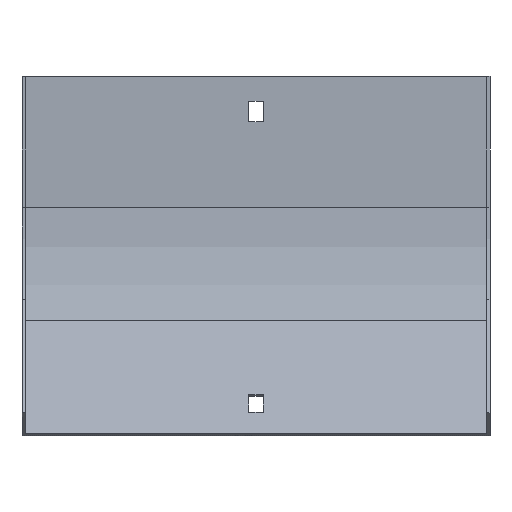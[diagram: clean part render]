
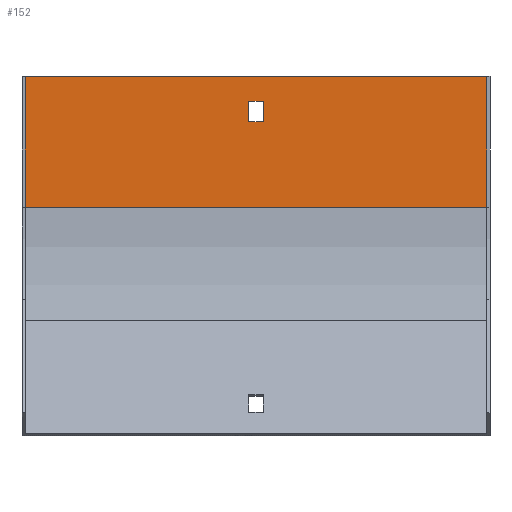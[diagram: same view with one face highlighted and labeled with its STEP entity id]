
A CAD part, front view. The second image highlights one B-rep face of the part: STEP entity #152.
In plain terms, the highlighted planar face has unit normal (0, -1, 0).
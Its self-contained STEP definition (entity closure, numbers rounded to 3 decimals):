
#1 = CARTESIAN_POINT ( 'NONE',  ( 102., -1.5, -57.9 ) ) ;
#6 = EDGE_LOOP ( 'NONE', ( #658, #153, #466, #668 ) ) ;
#24 = CARTESIAN_POINT ( 'NONE',  ( 103.5, -1.5, -57.9 ) ) ;
#42 = DIRECTION ( 'NONE',  ( 0., 0., 1. ) ) ;
#49 = VERTEX_POINT ( 'NONE', #431 ) ;
#56 = ORIENTED_EDGE ( 'NONE', *, *, #581, .F. ) ;
#73 = EDGE_CURVE ( 'NONE', #150, #790, #367, .T. ) ;
#98 = VECTOR ( 'NONE', #42, 1000. ) ;
#100 = VECTOR ( 'NONE', #564, 1000. ) ;
#105 = VERTEX_POINT ( 'NONE', #387 ) ;
#127 = FACE_BOUND ( 'NONE', #6, .T. ) ;
#150 = VERTEX_POINT ( 'NONE', #641 ) ;
#152 = ADVANCED_FACE ( 'NONE', ( #127, #715 ), #655, .T. ) ;
#153 = ORIENTED_EDGE ( 'NONE', *, *, #234, .F. ) ;
#167 = VERTEX_POINT ( 'NONE', #709 ) ;
#168 = CARTESIAN_POINT ( 'NONE',  ( 103.5, -1.5, 0. ) ) ;
#170 = DIRECTION ( 'NONE',  ( 0., 0., 1. ) ) ;
#195 = ORIENTED_EDGE ( 'NONE', *, *, #712, .T. ) ;
#210 = CARTESIAN_POINT ( 'NONE',  ( -102., -1.5, 0. ) ) ;
#211 = DIRECTION ( 'NONE',  ( 1., 0., 0. ) ) ;
#234 = EDGE_CURVE ( 'NONE', #105, #703, #591, .T. ) ;
#240 = DIRECTION ( 'NONE',  ( 0., 0., -1. ) ) ;
#242 = LINE ( 'NONE', #773, #801 ) ;
#272 = AXIS2_PLACEMENT_3D ( 'NONE', #520, #791, #240 ) ;
#285 = CARTESIAN_POINT ( 'NONE',  ( -3.25, -1.5, 0. ) ) ;
#291 = DIRECTION ( 'NONE',  ( -1., 0., 0. ) ) ;
#307 = EDGE_CURVE ( 'NONE', #388, #105, #506, .T. ) ;
#313 = LINE ( 'NONE', #512, #98 ) ;
#317 = CARTESIAN_POINT ( 'NONE',  ( 103.5, -1.5, -11. ) ) ;
#323 = EDGE_CURVE ( 'NONE', #167, #790, #313, .T. ) ;
#346 = CARTESIAN_POINT ( 'NONE',  ( 3.25, -1.5, -20. ) ) ;
#367 = LINE ( 'NONE', #168, #596 ) ;
#374 = EDGE_CURVE ( 'NONE', #49, #388, #739, .T. ) ;
#387 = CARTESIAN_POINT ( 'NONE',  ( 3.25, -1.5, -11. ) ) ;
#388 = VERTEX_POINT ( 'NONE', #346 ) ;
#396 = VERTEX_POINT ( 'NONE', #1 ) ;
#419 = DIRECTION ( 'NONE',  ( 0., 0., 1. ) ) ;
#431 = CARTESIAN_POINT ( 'NONE',  ( -3.25, -1.5, -20. ) ) ;
#466 = ORIENTED_EDGE ( 'NONE', *, *, #307, .F. ) ;
#490 = VECTOR ( 'NONE', #170, 1000. ) ;
#500 = ORIENTED_EDGE ( 'NONE', *, *, #73, .T. ) ;
#501 = VECTOR ( 'NONE', #576, 1000. ) ;
#506 = LINE ( 'NONE', #768, #490 ) ;
#512 = CARTESIAN_POINT ( 'NONE',  ( -102., -1.5, -57.9 ) ) ;
#520 = CARTESIAN_POINT ( 'NONE',  ( 103.5, -1.5, 0. ) ) ;
#554 = LINE ( 'NONE', #24, #597 ) ;
#564 = DIRECTION ( 'NONE',  ( 0., 0., -1. ) ) ;
#572 = EDGE_CURVE ( 'NONE', #703, #49, #625, .T. ) ;
#576 = DIRECTION ( 'NONE',  ( -1., 0., 0. ) ) ;
#581 = EDGE_CURVE ( 'NONE', #396, #167, #554, .T. ) ;
#591 = LINE ( 'NONE', #317, #501 ) ;
#596 = VECTOR ( 'NONE', #687, 1000. ) ;
#597 = VECTOR ( 'NONE', #291, 1000. ) ;
#624 = VECTOR ( 'NONE', #211, 1000. ) ;
#625 = LINE ( 'NONE', #285, #100 ) ;
#641 = CARTESIAN_POINT ( 'NONE',  ( 102., -1.5, 0. ) ) ;
#642 = CARTESIAN_POINT ( 'NONE',  ( -3.25, -1.5, -11. ) ) ;
#655 = PLANE ( 'NONE',  #272 ) ;
#658 = ORIENTED_EDGE ( 'NONE', *, *, #572, .F. ) ;
#663 = CARTESIAN_POINT ( 'NONE',  ( 103.5, -1.5, -20. ) ) ;
#668 = ORIENTED_EDGE ( 'NONE', *, *, #374, .F. ) ;
#687 = DIRECTION ( 'NONE',  ( -1., 0., 0. ) ) ;
#703 = VERTEX_POINT ( 'NONE', #642 ) ;
#709 = CARTESIAN_POINT ( 'NONE',  ( -102., -1.5, -57.9 ) ) ;
#712 = EDGE_CURVE ( 'NONE', #396, #150, #242, .T. ) ;
#715 = FACE_OUTER_BOUND ( 'NONE', #807, .T. ) ;
#739 = LINE ( 'NONE', #663, #624 ) ;
#766 = ORIENTED_EDGE ( 'NONE', *, *, #323, .F. ) ;
#768 = CARTESIAN_POINT ( 'NONE',  ( 3.25, -1.5, 0. ) ) ;
#773 = CARTESIAN_POINT ( 'NONE',  ( 102., -1.5, -57.9 ) ) ;
#790 = VERTEX_POINT ( 'NONE', #210 ) ;
#791 = DIRECTION ( 'NONE',  ( 0., -1., 0. ) ) ;
#801 = VECTOR ( 'NONE', #419, 1000. ) ;
#807 = EDGE_LOOP ( 'NONE', ( #766, #56, #195, #500 ) ) ;
